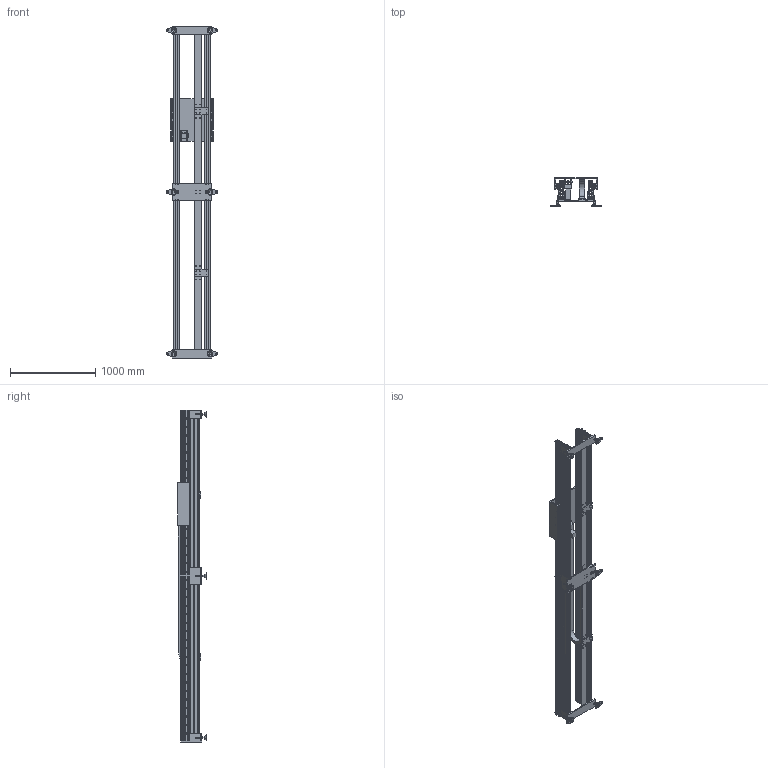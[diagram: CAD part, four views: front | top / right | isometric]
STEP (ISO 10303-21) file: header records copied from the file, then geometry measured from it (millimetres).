
FILE_DESCRIPTION (( 'STEP AP214' ), '1' );
FILE_NAME ('HST65.STEP', '2020-04-16T09:26:28', ( '' ), ( '' ), 'SwSTEP 2.0', 'SolidWorks 2019', '' );
FILE_SCHEMA (( 'AUTOMOTIVE_DESIGN' ));
Length unit declared in the file: millimetre
Products named in the file (1): HST65
Bounding box: 599.85 x 333 x 3900 mm (x, y, z)
Volume: 53936600.9 mm3; surface area: 21545217.2 mm2
Topology: 3 solids, 41 shells, 7419 faces, 20769 edges, 13626 vertices
Faces by surface type: plane 3760, cylinder 3249, cone 212, torus 174, bspline 24
Entity records: 332990 total; most frequent: CARTESIAN_POINT 54639, DIRECTION 41799, ORIENTED_EDGE 41442, EDGE_CURVE 20721, AXIS2_PLACEMENT_3D 14486, VERTEX_POINT 13626, VECTOR 12827, LINE 12827
